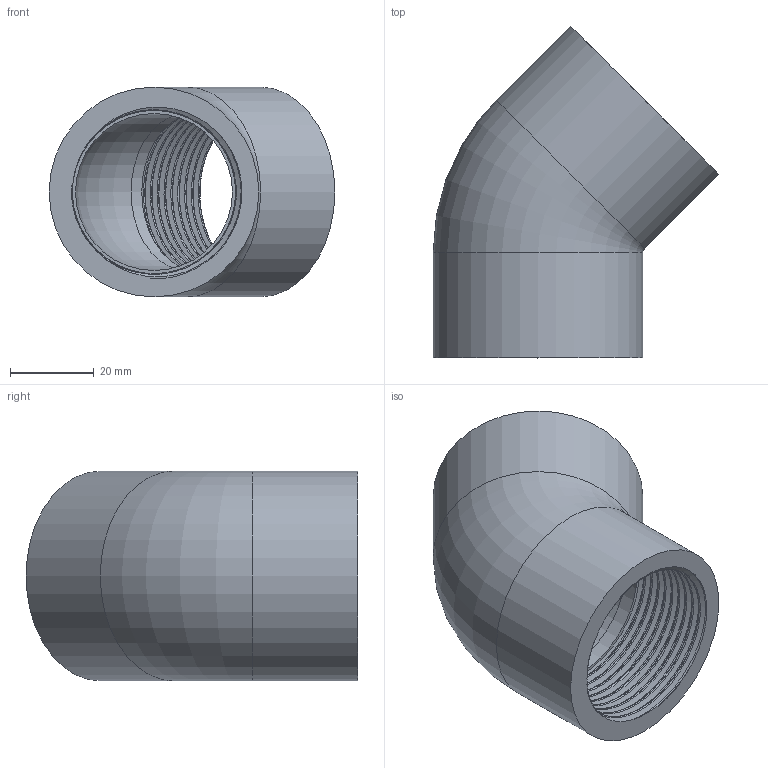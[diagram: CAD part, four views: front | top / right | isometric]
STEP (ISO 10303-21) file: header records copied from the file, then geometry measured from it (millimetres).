
FILE_DESCRIPTION(/* description */ ('PVC gomito a 45° incollaggio metrico'),/* implementation_level */ '2;1');
FILE_NAME(/* name */ 'C:\Users\POLYPIPE\Desktop\DATASET INVENTOR\LIBRERIA EFFAST\RACCORDI 3DxWEB\RER\3D_RERGYE\3D_RERGYE040E.stp',/* time_stamp */ '2018-01-19T16:34:11+01:00',/* author */ ('POLYPIPE'),/* organization */ ('Polypipe Italia s.r.l.'),/* preprocessor_version */ 'ST-DEVELOPER v16.1',/* originating_system */ 'Autodesk Inventor 2016',/* authorisation */ '');
FILE_SCHEMA (('CONFIG_CONTROL_DESIGN'));
Length unit declared in the file: millimetre
Products named in the file (1): 3D_RERGYE
Bounding box: 68.13 x 79.13 x 50 mm (x, y, z)
Volume: 53009.8 mm3; surface area: 26060 mm2
Topology: 1 solids, 1 shells, 24 faces, 50 edges, 30 vertices
Faces by surface type: bspline 10, cylinder 6, plane 6, torus 2
Full cylindrical faces by diameter (mm): 37.452 x2, 38.952 x2, 50 x2
Entity records: 8050 total; most frequent: CARTESIAN_POINT 7595, ORIENTED_EDGE 88, DIRECTION 68, EDGE_CURVE 44, EDGE_LOOP 34, AXIS2_PLACEMENT_3D 31, VERTEX_POINT 30, FACE_OUTER_BOUND 24
